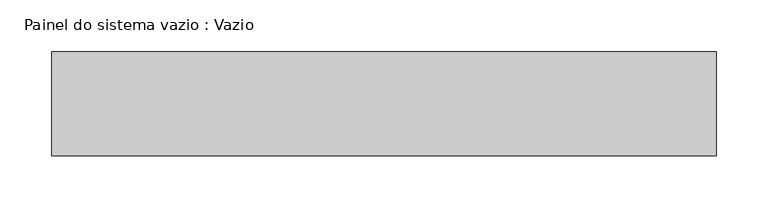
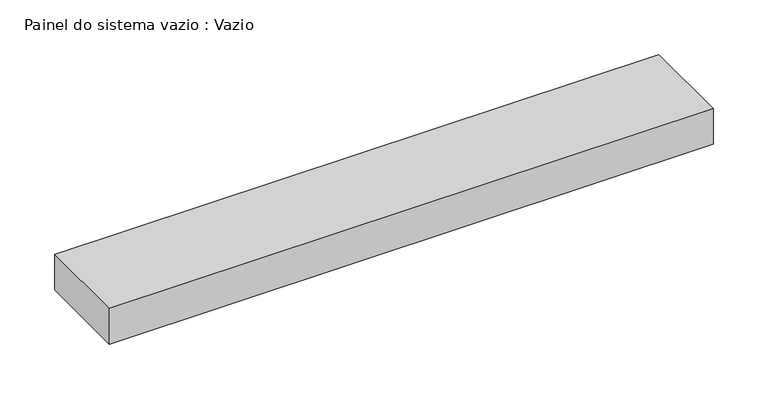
"""IFC4 building model written with IfcOpenShell, lengths in millimetres: plate geometry, Painel do sistema vazio : Vazio."""

from ifc_helpers import new_model, si_unit, origin, origin_with_axes, place, context, project, spatial, polyline, outline, extrude, source, transform, mapped, element, save


def painel_do_sistema_vazio_vazio_381b0a14(model_context):
    return source(origin(), model_context, "Body", "SweptSolid", [
        extrude(outline(polyline([(319.6196917, -50.0), (-319.6196917, -50.0), (-319.6196917, 50.0), (319.6196917, 50.0), (319.6196917, -50.0)])), origin_with_axes(), (0.0, 0.0, 1.0), 39.8707643),
    ])


if __name__ == "__main__":
    model = new_model("IFC4")
    model_context = context("Model", 3, world=origin())
    ifc_project = project(units=[si_unit("LENGTHUNIT", "METRE", prefix="MILLI")], contexts=[model_context])
    site = spatial("IfcSite", under=ifc_project)
    building = spatial("IfcBuilding", under=site)
    placement = place(None, origin())
    painel_do_sistema_vazio_vazio_shape = painel_do_sistema_vazio_vazio_381b0a14(model_context)
    element("IfcPlate", 1, ObjectType="Painel do sistema vazio : Vazio", at=placement, inside=building, context=model_context, shape_type="MappedRepresentation", body=[
        mapped(painel_do_sistema_vazio_vazio_shape, transform((0.0, 0.0, 0.0), x_axis=(1.0, 0.0, 0.0), y_axis=(0.0, 1.0, 0.0), z_axis=(0.0, 0.0, 1.0))),
    ])
    save(model, "model.ifc")
